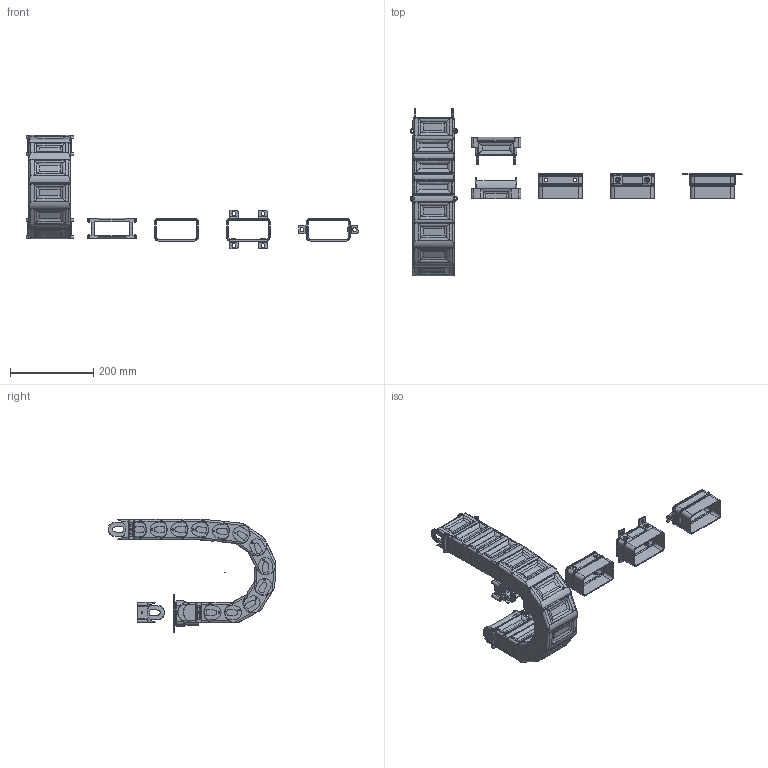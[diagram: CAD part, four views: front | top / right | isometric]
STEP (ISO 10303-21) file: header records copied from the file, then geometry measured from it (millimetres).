
FILE_DESCRIPTION((''),'2;1');
FILE_NAME('C:\Uebbing\PARAMETERKETTEN\PFR\PFR 222\PFR 222 STEP.stp','2013-10-14T14:39:35',('Uebbing'),(''),'Autodesk Inventor 10','Autodesk Inventor 10','');
FILE_SCHEMA(('AUTOMOTIVE_DESIGN { 1 0 10303 214 1 1 1 1 }'));
Length unit declared in the file: millimetre
Products named in the file (14): PFR 222 STEP; Achse; PFR 222 Glied R100; PFR 222 Stirnflansch Aussen; PFR 222 Stirnflansch Innen; PFR 222 Normalanschluss; PFR 222 Anschluss A; Rändelmutter mit Schraube und Winkel; Rändelmutter M6 flach; Anschlusswinkel; Imbusschraube M6x5 Senkkopf; PFR 222 Anschluss B; PFR 222 Kunststoffanschluss
Assembly tree (30 placements, depth 4):
  PFR 222 STEP
    Achse
    PFR 222 Glied R100  x11
    PFR 222 Stirnflansch Aussen
    PFR 222 Stirnflansch Innen
    PFR 222 Normalanschluss
    PFR 222 Anschluss A
      PFR 222 Normalanschluss
      Rändelmutter mit Schraube und Winkel  x4
        Rändelmutter M6 flach
        Anschlusswinkel
        Imbusschraube M6x5 Senkkopf
    PFR 222 Anschluss B
      PFR 222 Anschluss B
      Rändelmutter mit Schraube und Winkel  x2
        Rändelmutter M6 flach
        Anschlusswinkel
        Imbusschraube M6x5 Senkkopf
    PFR 222 Kunststoffanschluss  x2
Bounding box: 799.03 x 404.15 x 274 mm (x, y, z)
Volume: 1347953.3 mm3; surface area: 690779.7 mm2
Topology: 37 solids, 37 shells, 2644 faces, 6724 edges, 4155 vertices
Faces by surface type: cylinder 973, bspline 694, plane 693, torus 260, cone 24
Full cylindrical faces by diameter (mm): 1 x1, 3.5 x30, 5 x8, 6 x14, 6.5 x6, 9 x16, 9.2 x6, 11 x6, 12 x6
Entity records: 43774 total; most frequent: CARTESIAN_POINT 21831, ORIENTED_EDGE 4506, DIRECTION 4481, EDGE_CURVE 2253, AXIS2_PLACEMENT_3D 1714, VERTEX_POINT 1395, EDGE_LOOP 1066, VECTOR 1053
